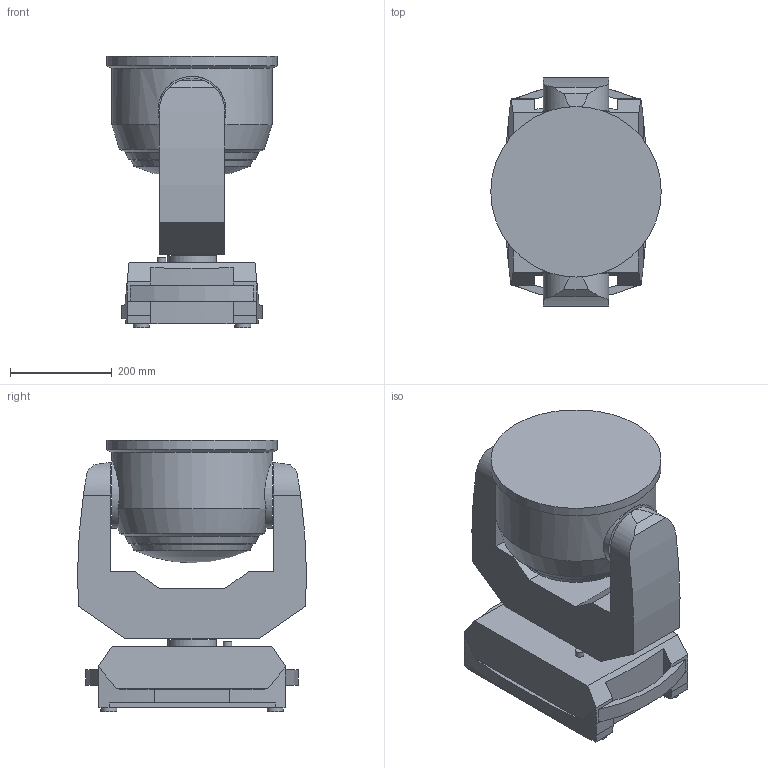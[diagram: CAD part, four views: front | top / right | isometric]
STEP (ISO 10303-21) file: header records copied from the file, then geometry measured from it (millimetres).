
FILE_DESCRIPTION(/* description */ ('Unknown'),/* implementation_level */ '2;1');
FILE_NAME(/* name */ '3D_Robin iSpiider-01',/* time_stamp */ '2023-11-13T15:39:11+01:00',/* author */ ('Unknown'),/* organization */ ('Unknown'),/* preprocessor_version */ 'ST-DEVELOPER v18.104',/* originating_system */ 'Solid Edge',/* authorisation */ 'Unknown');
FILE_SCHEMA (('AUTOMOTIVE_DESIGN {1 0 10303 214 3 1 1}'));
Length unit declared in the file: millimetre
Products named in the file (4): 3D_Robin iSpiider; Base iSpiider; Arm iSpiider; Head iSpiider
Assembly tree (3 placements, depth 2):
  3D_Robin iSpiider
    Base iSpiider
    Arm iSpiider
    Head iSpiider
Bounding box: 335.51 x 449.85 x 533.65 mm (x, y, z)
Volume: 36423189 mm3; surface area: 1115109.7 mm2
Topology: 3 solids, 3 shells, 110 faces, 283 edges, 189 vertices
Faces by surface type: plane 68, cylinder 35, cone 6, sphere 1
Full cylindrical faces by diameter (mm): 11.376 x4, 12 x4, 16.8 x1, 31.841 x4, 42 x1, 95 x1, 133.741 x2, 315.388 x1, 335.512 x1
Entity records: 3353 total; most frequent: CARTESIAN_POINT 682, DIRECTION 560, ORIENTED_EDGE 484, EDGE_CURVE 242, AXIS2_PLACEMENT_3D 212, VERTEX_POINT 174, EDGE_LOOP 150, FACE_BOUND 150
